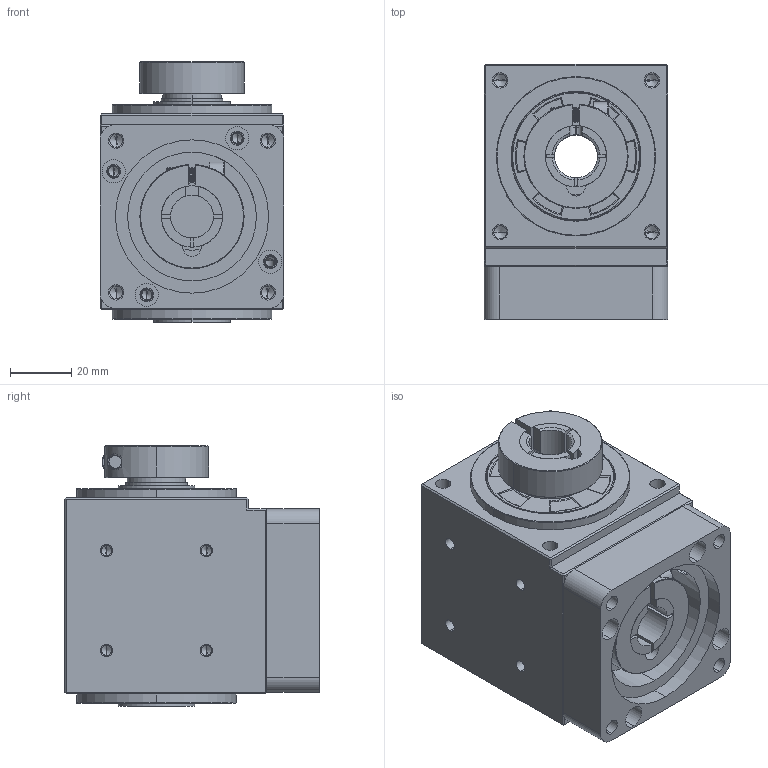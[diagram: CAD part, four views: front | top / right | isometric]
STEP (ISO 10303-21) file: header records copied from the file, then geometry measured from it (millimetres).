
FILE_DESCRIPTION (( 'STEP AP214' ), '1' );
FILE_NAME ('RH60-2(14-50-70-M5).STEP', '2018-12-05T04:11:37', ( '' ), ( '' ), 'SwSTEP 2.0', 'SolidWorks 2016', '' );
FILE_SCHEMA (( 'AUTOMOTIVE_DESIGN' ));
Length unit declared in the file: millimetre
Products named in the file (8): RH60-(14x13-4x10.5); R60-25x47x5; R60-25x42x5; R60-2(50-70-M5); SN60-34x20x10.5-M5; R60-2-(14); RH60-2(14-50-70-M5); R60
Assembly tree (8 placements, depth 2):
  RH60-2(14-50-70-M5)
    R60
    R60-25x42x5
    R60-25x47x5
    R60-2(50-70-M5)
    RH60-(14x13-4x10.5)
    R60-2-(14)
    SN60-34x20x10.5-M5  x2
Bounding box: 60 x 83.2 x 85 mm (x, y, z)
Volume: 214777.4 mm3; surface area: 81709 mm2
Topology: 14 solids, 14 shells, 799 faces, 1978 edges, 1211 vertices
Faces by surface type: cylinder 393, plane 163, cone 133, bspline 58, torus 52
Entity records: 38142 total; most frequent: CARTESIAN_POINT 22485, DIRECTION 3083, ORIENTED_EDGE 3070, EDGE_CURVE 1535, AXIS2_PLACEMENT_3D 1215, VERTEX_POINT 956, EDGE_LOOP 747, ADVANCED_FACE 660
